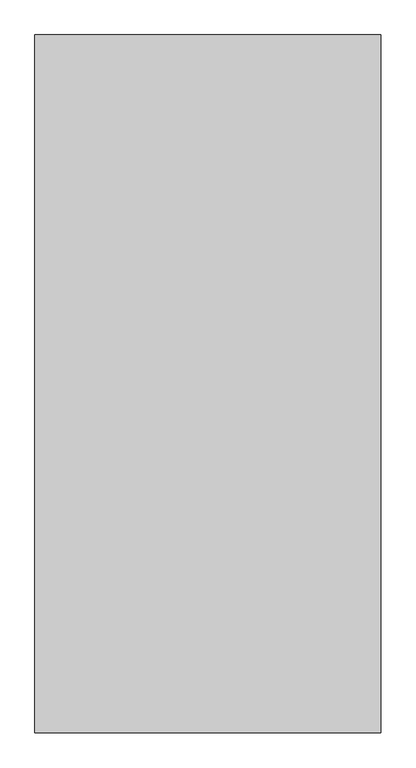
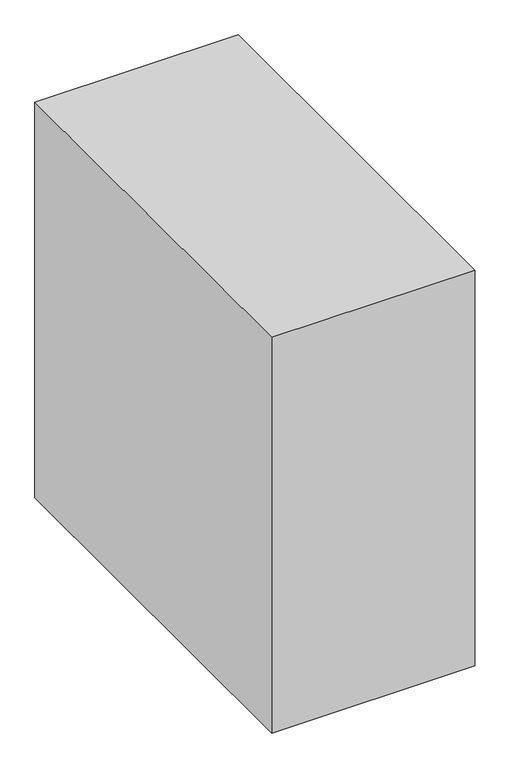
"""IFC4 building model written with IfcOpenShell, lengths in millimetres: proxy geometry."""

from ifc_helpers import new_model, si_unit, origin, origin_with_axes, place, context, project, spatial, polyline, outline, extrude, source, transform, mapped, element, save


def generic_models_64756e2c(model_context):
    return source(origin(), model_context, "Body", "SweptSolid", [
        extrude(outline(polyline([(1445.8090959, -1824.0), (-64.1909041, -1824.0), (-64.1909041, 1224.0), (1445.8090959, 1224.0), (1445.8090959, -1824.0)])), origin_with_axes(), (0.0, 0.0, 1.0), 3110.0),
    ])


if __name__ == "__main__":
    model = new_model("IFC4")
    model_context = context("Model", 3, world=origin())
    ifc_project = project(units=[si_unit("LENGTHUNIT", "METRE", prefix="MILLI")], contexts=[model_context])
    site = spatial("IfcSite", under=ifc_project)
    building = spatial("IfcBuilding", under=site)
    placement = place(None, origin())
    generic_models_shape = generic_models_64756e2c(model_context)
    element("IfcBuildingElementProxy", 1, Name="Generic Models", at=placement, inside=building, context=model_context, shape_type="MappedRepresentation", body=[
        mapped(generic_models_shape, transform((0.0, 0.0, 0.0), x_axis=(1.0, 0.0, 0.0), y_axis=(0.0, 1.0, 0.0), z_axis=(0.0, 0.0, 1.0))),
    ])
    save(model, "model.ifc")
